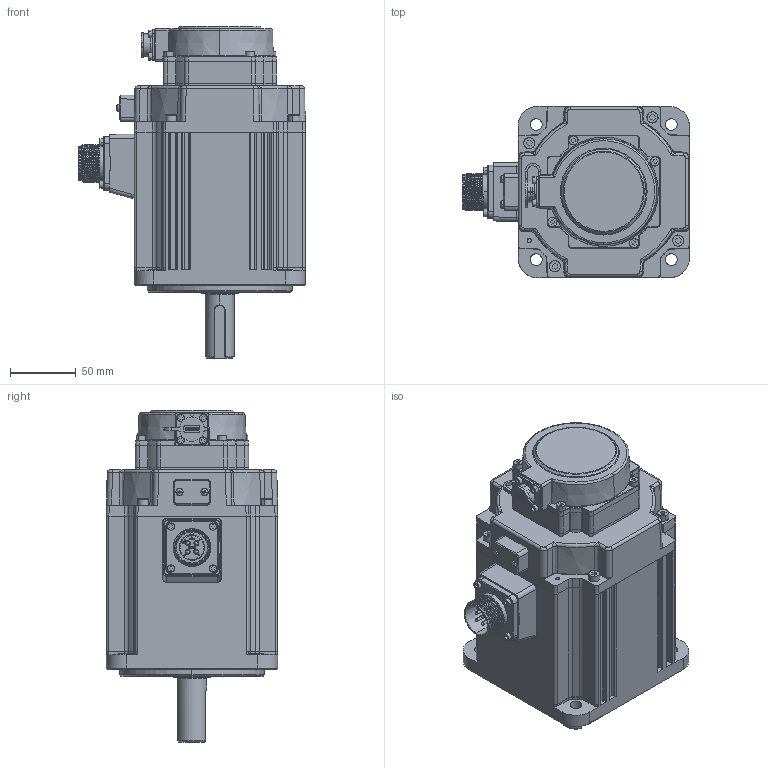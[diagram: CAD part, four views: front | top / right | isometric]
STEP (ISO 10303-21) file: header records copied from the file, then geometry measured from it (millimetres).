
FILE_DESCRIPTION (( 'STEP AP203' ), '1' );
FILE_NAME ('MS6G-130TH15BZ2-21P5.STEP', '2024-06-18T07:28:49', ( '' ), ( '' ), 'SwSTEP 2.0', 'SolidWorks 2022', '' );
FILE_SCHEMA (( 'CONFIG_CONTROL_DESIGN' ));
Length unit declared in the file: millimetre
Products named in the file (1): MS6G-130TH15BZ2-21P5
Bounding box: 172.1 x 130 x 252 mm (x, y, z)
Volume: 2589263.8 mm3; surface area: 235641.8 mm2
Topology: 29 solids, 29 shells, 2945 faces, 7880 edges, 5124 vertices
Faces by surface type: plane 1468, cylinder 698, bspline 464, cone 157, torus 142, sphere 16
Entity records: 109915 total; most frequent: CARTESIAN_POINT 41951, ORIENTED_EDGE 15624, DIRECTION 11691, EDGE_CURVE 7812, VERTEX_POINT 5114, AXIS2_PLACEMENT_3D 3905, VECTOR 3881, LINE 3881
